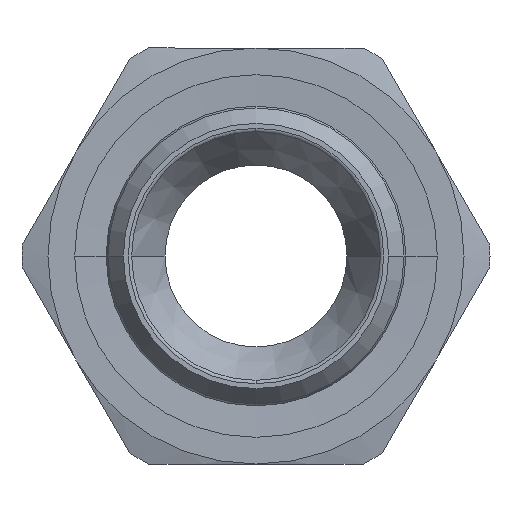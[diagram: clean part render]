
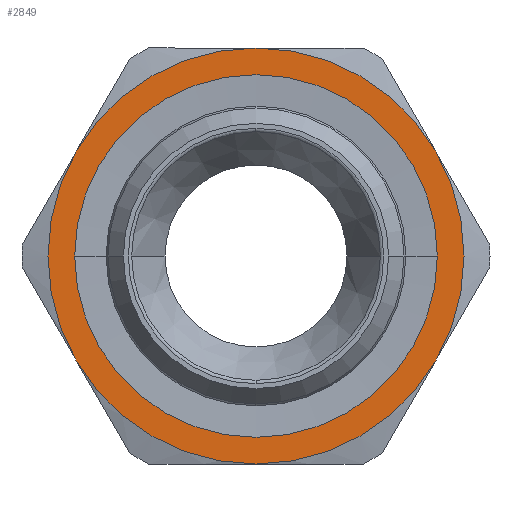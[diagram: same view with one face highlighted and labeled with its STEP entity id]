
A CAD part, left-side view. The second image highlights one B-rep face of the part: STEP entity #2849.
In plain terms, the highlighted planar face has unit normal (-1, 0, 0) as drawn and (0, 0, 1) by its records, which use the part's own axes.
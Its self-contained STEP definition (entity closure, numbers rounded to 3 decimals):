
#1176=CARTESIAN_POINT('',(0.,-13.95,4.5));
#1177=VERTEX_POINT('',#1176);
#1193=CARTESIAN_POINT('',(0.,13.95,4.5));
#1194=VERTEX_POINT('',#1193);
#1201=CARTESIAN_POINT('',(0.,0.,4.5));
#1202=DIRECTION('',(0.0,0.0,-1.0));
#1203=DIRECTION('',(0.0,-1.0,0.0));
#1204=AXIS2_PLACEMENT_3D('',#1201,#1202,#1203);
#1205=CIRCLE('',#1204,13.95);
#1206=EDGE_CURVE('',#1177,#1194,#1205,.T.);
#1663=CARTESIAN_POINT('',(0.,0.,4.5));
#1664=DIRECTION('',(0.0,0.0,-1.0));
#1665=DIRECTION('',(0.0,-1.0,0.0));
#1666=AXIS2_PLACEMENT_3D('',#1663,#1664,#1665);
#1667=CIRCLE('',#1666,13.95);
#1668=EDGE_CURVE('',#1194,#1177,#1667,.T.);
#2222=CARTESIAN_POINT('',(8.,-13.856,4.5));
#2223=VERTEX_POINT('',#2222);
#2237=CARTESIAN_POINT('',(-8.,-13.856,4.5));
#2238=VERTEX_POINT('',#2237);
#2239=CARTESIAN_POINT('',(0.,0.0,4.5));
#2240=DIRECTION('',(0.0,0.0,1.0));
#2241=DIRECTION('',(1.0,0.0,0.0));
#2242=AXIS2_PLACEMENT_3D('',#2239,#2240,#2241);
#2243=CIRCLE('',#2242,16.);
#2244=EDGE_CURVE('',#2238,#2223,#2243,.T.);
#2322=CARTESIAN_POINT('',(-16.0,0.,4.5));
#2323=VERTEX_POINT('',#2322);
#2324=CARTESIAN_POINT('',(0.,0.0,4.5));
#2325=DIRECTION('',(0.0,0.0,1.0));
#2326=DIRECTION('',(1.0,0.0,0.0));
#2327=AXIS2_PLACEMENT_3D('',#2324,#2325,#2326);
#2328=CIRCLE('',#2327,16.);
#2329=EDGE_CURVE('',#2323,#2238,#2328,.T.);
#2406=CARTESIAN_POINT('',(-8.,13.856,4.5));
#2407=VERTEX_POINT('',#2406);
#2408=CARTESIAN_POINT('',(0.,0.0,4.5));
#2409=DIRECTION('',(0.0,0.0,1.0));
#2410=DIRECTION('',(1.0,0.0,0.0));
#2411=AXIS2_PLACEMENT_3D('',#2408,#2409,#2410);
#2412=CIRCLE('',#2411,16.);
#2413=EDGE_CURVE('',#2407,#2323,#2412,.T.);
#2490=CARTESIAN_POINT('',(8.,13.856,4.5));
#2491=VERTEX_POINT('',#2490);
#2492=CARTESIAN_POINT('',(0.,0.0,4.5));
#2493=DIRECTION('',(0.0,0.0,1.0));
#2494=DIRECTION('',(1.0,0.0,0.0));
#2495=AXIS2_PLACEMENT_3D('',#2492,#2493,#2494);
#2496=CIRCLE('',#2495,16.);
#2497=EDGE_CURVE('',#2491,#2407,#2496,.T.);
#2575=CARTESIAN_POINT('',(16.0,0.0,4.5));
#2576=VERTEX_POINT('',#2575);
#2577=CARTESIAN_POINT('',(0.,0.0,4.5));
#2578=DIRECTION('',(0.0,0.0,1.0));
#2579=DIRECTION('',(1.0,0.0,0.0));
#2580=AXIS2_PLACEMENT_3D('',#2577,#2578,#2579);
#2581=CIRCLE('',#2580,16.);
#2582=EDGE_CURVE('',#2576,#2491,#2581,.T.);
#2659=CARTESIAN_POINT('',(0.,0.0,4.5));
#2660=DIRECTION('',(0.0,0.0,1.0));
#2661=DIRECTION('',(1.0,0.0,0.0));
#2662=AXIS2_PLACEMENT_3D('',#2659,#2660,#2661);
#2663=CIRCLE('',#2662,16.);
#2664=EDGE_CURVE('',#2223,#2576,#2663,.T.);
#2832=CARTESIAN_POINT('',(0.,0.,4.5));
#2833=DIRECTION('',(0.0,0.0,1.0));
#2834=DIRECTION('',(1.0,0.0,0.0));
#2835=AXIS2_PLACEMENT_3D('',#2832,#2833,#2834);
#2836=PLANE('',#2835);
#2837=ORIENTED_EDGE('',*,*,#2664,.T.);
#2838=ORIENTED_EDGE('',*,*,#2582,.T.);
#2839=ORIENTED_EDGE('',*,*,#2497,.T.);
#2840=ORIENTED_EDGE('',*,*,#2413,.T.);
#2841=ORIENTED_EDGE('',*,*,#2329,.T.);
#2842=ORIENTED_EDGE('',*,*,#2244,.T.);
#2843=EDGE_LOOP('',(#2837,#2838,#2839,#2840,#2841,#2842));
#2844=FACE_OUTER_BOUND('',#2843,.T.);
#2845=ORIENTED_EDGE('',*,*,#1206,.T.);
#2846=ORIENTED_EDGE('',*,*,#1668,.T.);
#2847=EDGE_LOOP('',(#2845,#2846));
#2848=FACE_BOUND('',#2847,.T.);
#2849=ADVANCED_FACE('',(#2844,#2848),#2836,.T.);
